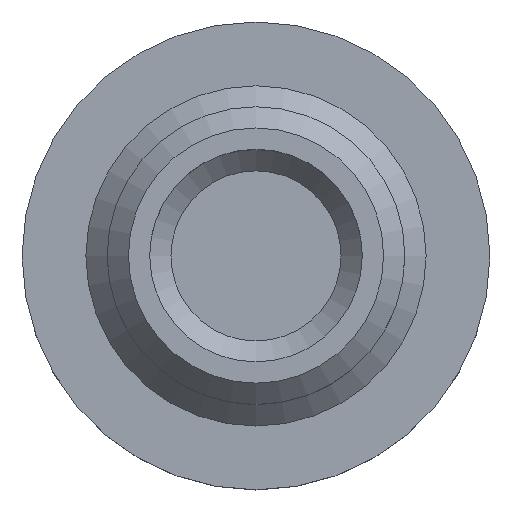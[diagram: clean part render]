
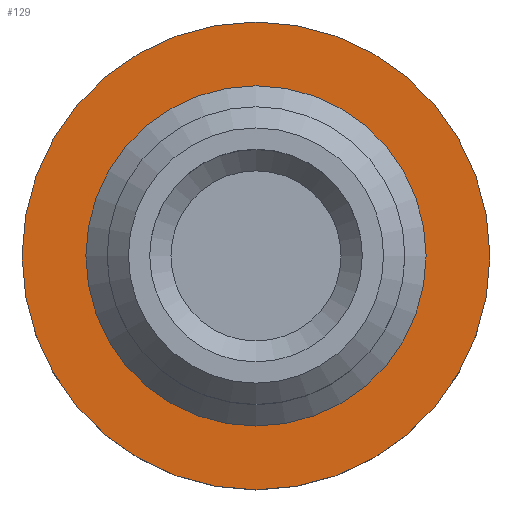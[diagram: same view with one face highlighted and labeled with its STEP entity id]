
A CAD part, top view. The second image highlights one B-rep face of the part: STEP entity #129.
In plain terms, the highlighted planar face has unit normal (0, 0, 1).
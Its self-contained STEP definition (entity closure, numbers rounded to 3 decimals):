
#15=FACE_BOUND('',#40,.T.);
#18=PLANE('',#159);
#29=FACE_OUTER_BOUND('',#39,.T.);
#39=EDGE_LOOP('',(#108));
#40=EDGE_LOOP('',(#109));
#61=CIRCLE('',#155,8.);
#64=CIRCLE('',#160,11.);
#70=VERTEX_POINT('',#226);
#73=VERTEX_POINT('',#236);
#81=EDGE_CURVE('',#70,#70,#61,.T.);
#86=EDGE_CURVE('',#73,#73,#64,.T.);
#108=ORIENTED_EDGE('',*,*,#86,.T.);
#109=ORIENTED_EDGE('',*,*,#81,.F.);
#129=ADVANCED_FACE('',(#29,#15),#18,.T.);
#155=AXIS2_PLACEMENT_3D('',#227,#185,#186);
#159=AXIS2_PLACEMENT_3D('',#235,#195,#196);
#160=AXIS2_PLACEMENT_3D('',#237,#197,#198);
#185=DIRECTION('center_axis',(0.,0.,1.));
#186=DIRECTION('ref_axis',(-1.,0.,0.));
#195=DIRECTION('center_axis',(0.,0.,1.));
#196=DIRECTION('ref_axis',(-1.,0.,0.));
#197=DIRECTION('center_axis',(0.,0.,1.));
#198=DIRECTION('ref_axis',(-1.,0.,0.));
#226=CARTESIAN_POINT('',(-87.,95.,4.));
#227=CARTESIAN_POINT('Origin',(-95.,95.,4.));
#235=CARTESIAN_POINT('Origin',(-95.,95.,4.));
#236=CARTESIAN_POINT('',(-84.,95.,4.));
#237=CARTESIAN_POINT('Origin',(-95.,95.,4.));
